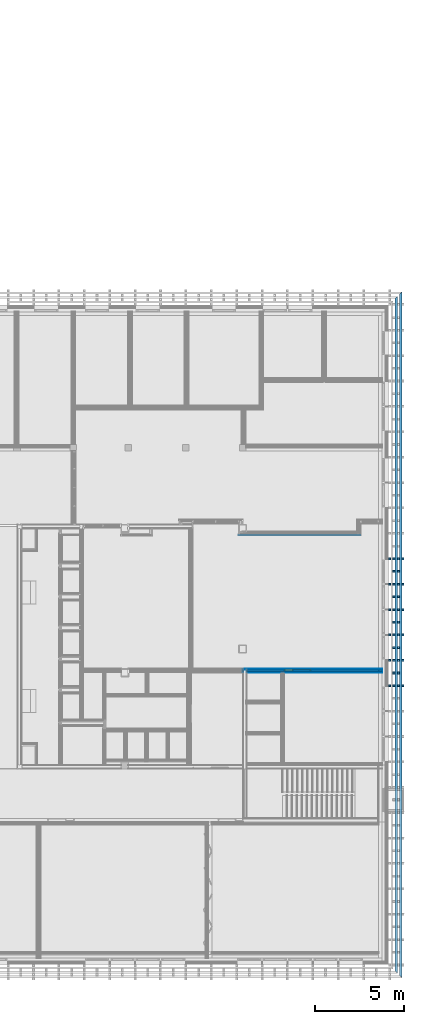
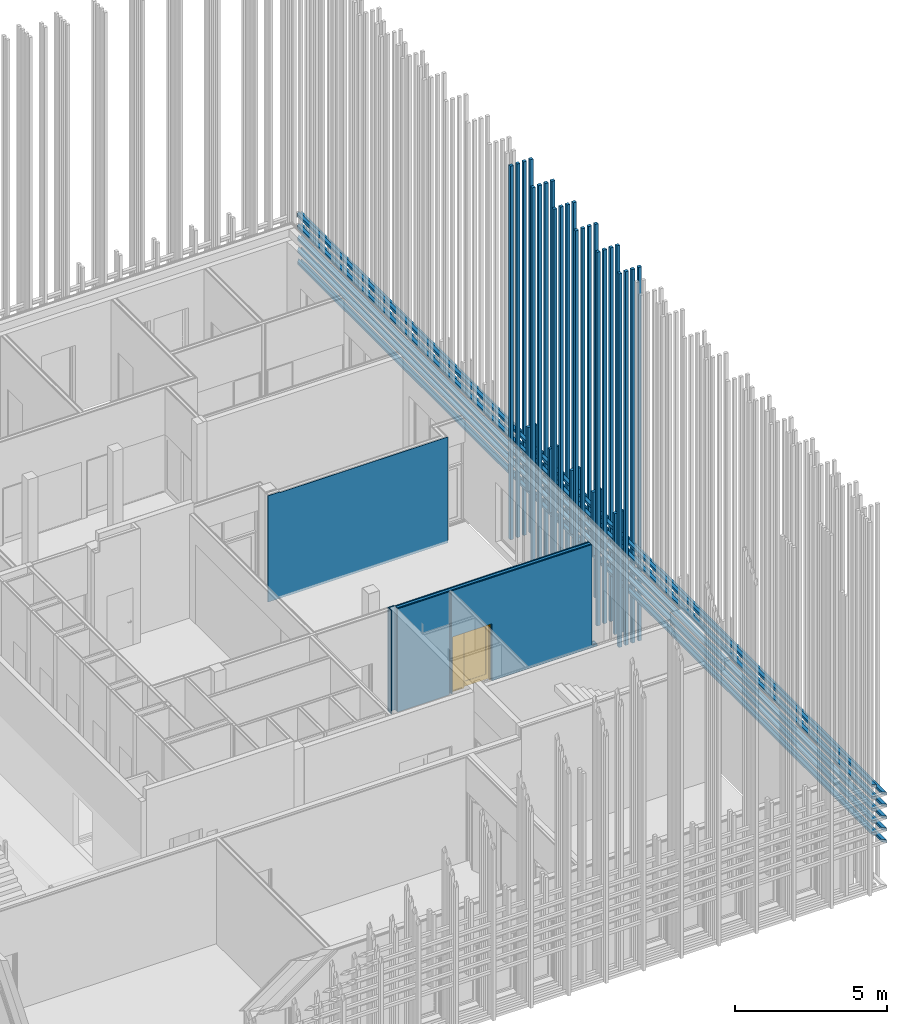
# One storey, part 213 of 260: 16 discrete accessories, 10 building element parts, 1 door, 1 opening, 2 elements without a shape of their own.
"""IFC2X3 building model written with IfcOpenShell, lengths in millimetres."""

import ifcopenshell
import ifcopenshell.guid

model = None  # the IFC model being written
_history = None  # IfcOwnerHistory: only IFC2X3 demands one
_inside = {}  # id of a spatial element -> (the spatial element, [elements in it])
_under = {}  # id of a project, library or spatial element -> (it, [spatial elements below it])
_declared = {}  # id of a project -> (the project, [libraries it declares])
_typed = {}  # id of a type object -> (the type object, [elements of that type])
_made_of = {}  # id of a material, layer set ... -> (it, [elements and type objects made of it])


def new_model(schema):
    """Start an empty IFC model of exactly this schema.

    Asked for "IFC4X3", IfcOpenShell would pick the latest addendum, in which some entities
    have other attributes; the version numbers below select the first issue.
    IFC2X3 requires an IfcOwnerHistory on every rooted entity: one is made here for all.
    """
    global model, _history
    if schema == "IFC4X3":
        model = ifcopenshell.file(schema_version=(4, 3, 0, 0))
    else:
        model = ifcopenshell.file(schema=schema)
    _inside.clear()
    _under.clear()
    _declared.clear()
    _typed.clear()
    _made_of.clear()
    _history = None
    if model.schema == "IFC2X3":
        org = make("IfcOrganization", Name="unknown")
        user = make(
            "IfcPersonAndOrganization",
            ThePerson=make("IfcPerson", FamilyName="unknown"),
            TheOrganization=org,
        )
        app = make(
            "IfcApplication",
            ApplicationDeveloper=org,
            Version="unknown",
            ApplicationFullName="unknown",
            ApplicationIdentifier="unknown",
        )
        _history = make(
            "IfcOwnerHistory",
            OwningUser=user,
            OwningApplication=app,
            ChangeAction="ADDED",
            CreationDate=0,
        )
    return model


def make(cls, **values):
    """One entity of the class cls with the attributes given. An attribute that is None is left unset."""
    return model.create_entity(
        cls, **{name: value for name, value in values.items() if value is not None}
    )


def entity(cls, *values):
    """Any entity or typed value of the class cls, its attributes in the order of the schema. None: left unset."""
    e = model.create_entity(cls)
    for i, value in enumerate(values):
        if value is not None:
            e[i] = value
    return e


def rooted(cls, **values):
    """An entity with a GlobalId (a new one), such as an element, a storey or a relation."""
    return make(cls, GlobalId=ifcopenshell.guid.new(), OwnerHistory=_history, **values)


def si_unit(unit_type, name, prefix=None):
    """IfcSIUnit, for example si_unit("LENGTHUNIT", "METRE", prefix="MILLI")."""
    return make("IfcSIUnit", UnitType=unit_type, Prefix=prefix, Name=name)


def converted_unit(unit_type, name, factor, base, dimensions=None, offset=None):
    """IfcConversionBasedUnit, such as the inch: factor (a typed value) times the base unit."""
    return make(
        "IfcConversionBasedUnit"
        if offset is None
        else "IfcConversionBasedUnitWithOffset",
        ConversionOffset=offset,
        Dimensions=None
        if dimensions is None
        else entity("IfcDimensionalExponents", *dimensions),
        UnitType=unit_type,
        Name=name,
        ConversionFactor=make(
            "IfcMeasureWithUnit", ValueComponent=factor, UnitComponent=base
        ),
    )


def derived_unit(unit_type, elements):
    """IfcDerivedUnit: a product of units, each with its exponent."""
    return make(
        "IfcDerivedUnit",
        Elements=[
            make("IfcDerivedUnitElement", Unit=unit, Exponent=power)
            for unit, power in elements
        ],
        UnitType=unit_type,
    )


def money_unit(currency):
    """IfcMonetaryUnit."""
    return make("IfcMonetaryUnit", Currency=currency)


def assignment(units):
    """IfcUnitAssignment: the units of a project."""
    return None if units is None else make("IfcUnitAssignment", Units=units)


def point(xyz):
    """IfcCartesianPoint."""
    return None if xyz is None else make("IfcCartesianPoint", Coordinates=xyz)


def direction(xyz):
    """IfcDirection."""
    return None if xyz is None else make("IfcDirection", DirectionRatios=xyz)


def frame(location, z_axis=None, x_axis=None):
    """IfcAxis2Placement3D, a coordinate frame: its origin and axes. An axis left out is left unset."""
    return make(
        "IfcAxis2Placement3D",
        Location=point(location),
        Axis=direction(z_axis),
        RefDirection=direction(x_axis),
    )


def origin_with_axes():
    """The frame at (0, 0, 0) with the z axis (0, 0, 1) and the x axis (1, 0, 0) written out."""
    return frame((0.0, 0.0, 0.0), z_axis=(0.0, 0.0, 1.0), x_axis=(1.0, 0.0, 0.0))


def place(relative_to, where):
    """IfcLocalPlacement: puts the frame where relative to a parent placement (None: the world)."""
    return make(
        "IfcLocalPlacement", PlacementRelTo=relative_to, RelativePlacement=where
    )


def context(
    kind, dimensions, precision=None, world=None, true_north=None, identifier=None
):
    """IfcGeometricRepresentationContext, for example the 3D "Model" context."""
    return make(
        "IfcGeometricRepresentationContext",
        ContextIdentifier=identifier,
        ContextType=kind,
        CoordinateSpaceDimension=dimensions,
        Precision=precision,
        WorldCoordinateSystem=world,
        TrueNorth=true_north,
    )


def subcontext(parent, identifier, kind, view, scale=None):
    """IfcGeometricRepresentationSubContext, for example "Body" below "Model"."""
    return make(
        "IfcGeometricRepresentationSubContext",
        ContextIdentifier=identifier,
        ContextType=kind,
        ParentContext=parent,
        TargetScale=scale,
        TargetView=view,
    )


def project(units=None, contexts=None):
    """IfcProject with its units and contexts."""
    return rooted(
        "IfcProject",
        Name="project",
        RepresentationContexts=contexts,
        UnitsInContext=assignment(units),
    )


def spatial(cls, under=None, at=None, **own):
    """A site, building, storey or space (cls), placed at a placement, below another one or the project."""
    s = rooted(cls, ObjectPlacement=at, **own)
    if under is not None:
        _under.setdefault(under.id(), (under, []))[1].append(s)
    return s


def faces_of(points, faces, orient=None, outer=None):
    """IfcFace entities. A face is a list of loops; a loop is a list of indices into points, from 0.

    orient and outer hold one flag for each loop. By default every Orientation is true, the
    first loop of a face is its IfcFaceOuterBound and the others are IfcFaceBound.
    """
    made = []
    for i, loops in enumerate(faces):
        bounds = []
        for j, loop in enumerate(loops):
            is_outer = j == 0 if outer is None else outer[i][j]
            bounds.append(
                make(
                    "IfcFaceOuterBound" if is_outer else "IfcFaceBound",
                    Bound=make("IfcPolyLoop", Polygon=[points[k] for k in loop]),
                    Orientation=True if orient is None else orient[i][j],
                )
            )
        made.append(make("IfcFace", Bounds=bounds))
    return made


def open_shell(faces, orient=None, outer=None):
    """The faces of one IfcOpenShell. surface_model builds it on its shared points."""
    return ("IfcOpenShell", faces, orient, outer)


def faceted_brep(points, faces, orient=None, outer=None, voids=None):
    """IfcFacetedBrep: a solid bounded by flat faces; with voids (closed shells), ...WithVoids."""
    shared = [point(p) for p in points]
    hull = make("IfcClosedShell", CfsFaces=faces_of(shared, faces, orient, outer))
    if voids is None:
        return make("IfcFacetedBrep", Outer=hull)
    return make(
        "IfcFacetedBrepWithVoids",
        Outer=hull,
        Voids=[
            make(cls, CfsFaces=faces_of(shared, fs, o, b)) for cls, fs, o, b in voids
        ],
    )


def surface_model(cls, points, shells):
    """IfcFaceBasedSurfaceModel or IfcShellBasedSurfaceModel (cls): surfaces that need not close."""
    shared = [point(p) for p in points]
    made = [make(c, CfsFaces=faces_of(shared, fs, o, b)) for c, fs, o, b in shells]
    if cls == "IfcFaceBasedSurfaceModel":
        return make(cls, FbsmFaces=made)
    return make(cls, SbsmBoundary=made)


def shape(context_of_items, identifier, shape_type, items):
    """IfcShapeRepresentation: the items that make up one representation, for example the "Body"."""
    return make(
        "IfcShapeRepresentation",
        ContextOfItems=context_of_items,
        RepresentationIdentifier=identifier,
        RepresentationType=shape_type,
        Items=items,
    )


def material(Name=None, Category=None):
    """IfcMaterial."""
    return make("IfcMaterial", Name=Name, Category=Category)


def material_list(materials):
    """IfcMaterialList."""
    return make("IfcMaterialList", Materials=materials)


def made_of(thing, what):
    """Note that an element or type object is made of a material, layer set ...; save() writes the relation."""
    if what is not None:
        _made_of.setdefault(what.id(), (what, []))[1].append(thing)
    return thing


def type_object(cls, material=None, **own):
    """A type object (cls), such as IfcWallType, which elements share."""
    return made_of(rooted(cls, **own), material)


def element(
    cls,
    number,
    at=None,
    inside=None,
    cuts=None,
    type_object=None,
    material=None,
    context=None,
    identifier="Body",
    shape_type=None,
    held_by="IfcProductDefinitionShape",
    body=None,
    shapes=None,
    **own,
):
    """One element of the class cls, such as IfcWall. Its Tag is "e" and its number.

    at: its placement. inside: the storey or other place that contains it. cuts: it is an
    opening in that element (IfcRelVoidsElement). A single representation is given by context,
    identifier, shape_type and body (its items); several are given by shapes. held_by: the class
    of the entity that holds the representations. save() writes the other relations.
    """
    e = rooted(cls, Tag="e%d" % number, ObjectPlacement=at, **own)
    if body is not None:
        shapes = [shape(context, identifier, shape_type, body)]
    if shapes is not None:
        e.Representation = make(held_by, Representations=shapes)
    if inside is not None:
        _inside.setdefault(inside.id(), (inside, []))[1].append(e)
    if cuts is not None:
        rooted(
            "IfcRelVoidsElement", RelatingBuildingElement=cuts, RelatedOpeningElement=e
        )
    if type_object is not None:
        _typed.setdefault(type_object.id(), (type_object, []))[1].append(e)
    return made_of(e, material)


def fill(opening, filler):
    """IfcRelFillsElement: the door or window that sits in an opening."""
    return rooted(
        "IfcRelFillsElement",
        RelatingOpeningElement=opening,
        RelatedBuildingElement=filler,
    )


def aggregate(whole, parts):
    """IfcRelAggregates: a whole, such as a stair, and the parts it consists of."""
    return rooted("IfcRelAggregates", RelatingObject=whole, RelatedObjects=parts)


def save(model, path):
    """Write the relations noted so far, then the file.

    IfcRelAggregates (storeys below a building ...), IfcRelContainedInSpatialStructure (elements
    in a storey), IfcRelDefinesByType, IfcRelAssociatesMaterial and IfcRelDeclares: one each for
    every whole, place, type object, material and project.
    """
    for whole, parts in _under.values():
        aggregate(whole, parts)
    for where, things in _inside.values():
        rooted(
            "IfcRelContainedInSpatialStructure",
            RelatedElements=things,
            RelatingStructure=where,
        )
    for kind, things in _typed.values():
        rooted("IfcRelDefinesByType", RelatedObjects=things, RelatingType=kind)
    for what, things in _made_of.values():
        rooted("IfcRelAssociatesMaterial", RelatedObjects=things, RelatingMaterial=what)
    for by, libraries in _declared.values():
        rooted("IfcRelDeclares", RelatingContext=by, RelatedDefinitions=libraries)
    model.write(path)


model = new_model("IFC2X3")

# Units and contexts
model_context = context("Model", 3, precision=0.01, world=origin_with_axes(), true_north=direction((0.0, 1.0)))
body_context = subcontext(model_context, "Body", "Model", "MODEL_VIEW")
ifc_project = project(units=[si_unit("LENGTHUNIT", "METRE", prefix="MILLI"), si_unit("AREAUNIT", "SQUARE_METRE"), si_unit("VOLUMEUNIT", "CUBIC_METRE"), converted_unit("PLANEANGLEUNIT", "DEGREE", entity("IfcPlaneAngleMeasure", 0.0174532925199), si_unit("PLANEANGLEUNIT", "RADIAN"), dimensions=[0, 0, 0, 0, 0, 0, 0]), money_unit("EUR"), converted_unit("TIMEUNIT", "Year", entity("IfcTimeMeasure", 31556926.0), si_unit("TIMEUNIT", "SECOND"), dimensions=[0, 0, 1, 0, 0, 0, 0]), si_unit("MASSUNIT", "GRAM", prefix="KILO"), si_unit("THERMODYNAMICTEMPERATUREUNIT", "DEGREE_CELSIUS"), si_unit("LUMINOUSINTENSITYUNIT", "LUMEN"), si_unit("ENERGYUNIT", "JOULE", prefix="MEGA"), derived_unit("THERMALCONDUCTANCEUNIT", [(si_unit("POWERUNIT", "WATT"), 1), (si_unit("LENGTHUNIT", "METRE"), -1), (si_unit("THERMODYNAMICTEMPERATUREUNIT", "KELVIN"), -1)]), derived_unit("SPECIFICHEATCAPACITYUNIT", [(si_unit("ENERGYUNIT", "JOULE"), 1), (si_unit("MASSUNIT", "GRAM", prefix="KILO"), -1), (si_unit("THERMODYNAMICTEMPERATUREUNIT", "KELVIN"), -1)]), derived_unit("MASSDENSITYUNIT", [(si_unit("MASSUNIT", "GRAM", prefix="KILO"), 1), (si_unit("VOLUMEUNIT", "CUBIC_METRE"), -1)])], contexts=[model_context])

# Site, building, storey
site_placement = place(None, origin_with_axes())
site = spatial("IfcSite", under=ifc_project, at=site_placement, Name="Kolde pst 67a", CompositionType="ELEMENT")
building_placement = place(site_placement, origin_with_axes())
building = spatial("IfcBuilding", under=site, at=building_placement, Name="Riigigümnaasium", CompositionType="ELEMENT")
storey_placement = place(building_placement, origin_with_axes())
storey = spatial("IfcBuildingStorey", under=building, at=storey_placement, Name="1. korrus", CompositionType="ELEMENT", Elevation=0.0)

# Door
door_style = type_object("IfcDoorStyle", Name="Door with Sidelight on Side 2 25", ConstructionType="NOTDEFINED", OperationType="SINGLE_SWING_RIGHT", ParameterTakesPrecedence=False, Sizeable=False)
wall_1_placement = place(storey_placement, frame((76579.9993279, 16330.0043142, 0.0), z_axis=(0.0, 0.0, 1.0), x_axis=(1.0, 0.0, 0.0)))
opening_placement = place(wall_1_placement, frame((3100.59532071, 0.0, 0.0), z_axis=(0.0, 0.0, 1.0), x_axis=(1.0, 0.0, 0.0)))
door_placement = place(opening_placement, frame((-750.0, 0.0, 0.0), z_axis=(0.0, 0.0, 1.0), x_axis=(1.0, 0.0, 0.0)))
door = element("IfcDoor", 1, at=door_placement, inside=storey, type_object=door_style, Name="Siseuks", ObjectType="DOOR", OverallHeight=2300.0, OverallWidth=1500.0, context=body_context, shape_type="SurfaceModel", body=[
    faceted_brep([(0.0, 0.0, 0.0), (40.0, 0.0, 0.0), (40.0, -115.0, 0.0), (0.0, -115.0, 0.0), (0.0, 0.0, 2260.0), (40.0, 0.0, 2260.0), (40.0, 0.0, 40.0), (40.0, -115.0, 40.0), (40.0, -115.0, 2260.0), (0.0, -115.0, 2260.0)], [[[0, 1, 2, 3]], [[0, 4, 5, 6, 1]], [[1, 6, 7, 2]], [[3, 2, 7, 8, 9]], [[4, 0, 3, 9]], [[5, 4, 9, 8]], [[6, 5, 8, 7]]]),
    faceted_brep([(500.0, -40.0, 0.0), (500.0, -40.0, 2260.0), (500.0, -115.0, 2260.0), (500.0, -115.0, 0.0), (488.0, -40.0, 2260.0), (488.0, -40.0, 0.0), (488.0, 0.0, 2260.0), (460.0, 0.0, 2260.0), (460.0, -115.0, 2260.0), (460.0, -115.0, 0.0), (460.0, -115.0, 40.0), (460.0, 0.0, 0.0), (488.0, 0.0, 0.0), (460.0, 0.0, 40.0)], [[[0, 1, 2, 3]], [[4, 1, 0, 5]], [[4, 6, 7, 8, 2, 1]], [[9, 3, 2, 8, 10]], [[5, 0, 3, 9, 11, 12]], [[6, 4, 5, 12]], [[6, 12, 11, 13, 7]], [[13, 10, 8, 7]], [[11, 9, 10, 13]]]),
    faceted_brep([(40.0, 0.0, 40.0), (40.0, 0.0, 0.0), (40.0, -115.0, 0.0), (40.0, -115.0, 40.0), (460.0, 0.0, 40.0), (460.0, 0.0, 0.0), (460.0, -115.0, 0.0), (460.0, -115.0, 40.0)], [[[0, 1, 2, 3]], [[0, 4, 5, 1]], [[1, 5, 6, 2]], [[3, 2, 6, 7]], [[4, 0, 3, 7]], [[5, 4, 7, 6]]]),
    faceted_brep([(1472.0, -40.0, 2260.0), (1460.0, -40.0, 2260.0), (1460.0, -115.0, 2260.0), (1500.0, -115.0, 2260.0), (1500.0, 0.0, 2260.0), (1472.0, 0.0, 2260.0), (1472.0, -40.0, 0.0), (1460.0, -40.0, 0.0), (1460.0, -115.0, 0.0), (1500.0, -115.0, 0.0), (1500.0, 0.0, 0.0), (1472.0, 0.0, 0.0)], [[[0, 1, 2, 3, 4, 5]], [[1, 0, 6, 7]], [[1, 7, 8, 2]], [[3, 2, 8, 9]], [[4, 3, 9, 10]], [[11, 5, 4, 10]], [[0, 5, 11, 6]], [[6, 11, 10, 9, 8, 7]]]),
    faceted_brep([(488.0, 0.0, 2272.0), (488.0, 0.0, 2260.0), (460.0, 0.0, 2260.0), (40.0, 0.0, 2260.0), (0.0, 0.0, 2260.0), (0.0, 0.0, 2300.0), (1500.0, 0.0, 2300.0), (1500.0, 0.0, 2260.0), (1472.0, 0.0, 2260.0), (1472.0, 0.0, 2272.0), (488.0, -40.0, 2272.0), (488.0, -40.0, 2260.0), (1460.0, -40.0, 2260.0), (1460.0, -115.0, 2260.0), (500.0, -115.0, 2260.0), (460.0, -115.0, 2260.0), (40.0, -115.0, 2260.0), (0.0, -115.0, 2260.0), (0.0, -115.0, 2300.0), (1500.0, -115.0, 2300.0), (1500.0, -115.0, 2260.0), (1472.0, -40.0, 2260.0), (1472.0, -40.0, 2272.0)], [[[0, 1, 2, 3, 4, 5, 6, 7, 8, 9]], [[1, 0, 10, 11]], [[11, 12, 13, 14, 15, 2, 1]], [[2, 15, 16, 3]], [[3, 16, 17, 4]], [[4, 17, 18, 5]], [[5, 18, 19, 6]], [[6, 19, 20, 7]], [[21, 8, 7, 20, 13, 12]], [[9, 8, 21, 22]], [[0, 9, 22, 10]], [[21, 12, 11, 10, 22]], [[13, 20, 19, 18, 17, 16, 15, 14]]]),
    faceted_brep([(1472.0, 0.0, 200.0), (1472.0, -40.0, 200.0), (1372.0, -40.0, 200.0), (1372.0, 0.0, 200.0), (1472.0, 0.0, 2172.0), (1472.0, -40.0, 2172.0), (1372.0, -40.0, 2172.0), (1372.0, 0.0, 2172.0)], [[[0, 1, 2, 3]], [[4, 5, 1, 0]], [[1, 5, 6, 2]], [[3, 2, 6, 7]], [[0, 3, 7, 4]], [[7, 6, 5, 4]]]),
    faceted_brep([(488.0, 0.0, 200.0), (488.0, -40.0, 200.0), (488.0, -40.0, 2172.0), (488.0, 0.0, 2172.0), (588.0, 0.0, 200.0), (588.0, -40.0, 200.0), (588.0, -40.0, 2172.0), (588.0, 0.0, 2172.0)], [[[0, 1, 2, 3]], [[4, 5, 1, 0]], [[1, 5, 6, 2]], [[3, 2, 6, 7]], [[0, 3, 7, 4]], [[7, 6, 5, 4]]]),
    faceted_brep([(1472.0, 0.0, 0.0), (1472.0, -40.0, 0.0), (488.0, -40.0, 0.0), (488.0, 0.0, 0.0), (1472.0, 0.0, 200.0), (1472.0, -40.0, 200.0), (1372.0, -40.0, 200.0), (588.0, -40.0, 200.0), (488.0, -40.0, 200.0), (488.0, 0.0, 200.0), (588.0, 0.0, 200.0), (1372.0, 0.0, 200.0)], [[[0, 1, 2, 3]], [[4, 5, 1, 0]], [[1, 5, 6, 7, 8, 2]], [[3, 2, 8, 9]], [[0, 3, 9, 10, 11, 4]], [[11, 6, 5, 4]], [[10, 7, 6, 11]], [[9, 8, 7, 10]]]),
    faceted_brep([(1472.0, 0.0, 2272.0), (1472.0, -40.0, 2272.0), (1472.0, -40.0, 2172.0), (1472.0, 0.0, 2172.0), (488.0, 0.0, 2272.0), (488.0, -40.0, 2272.0), (488.0, -40.0, 2172.0), (588.0, -40.0, 2172.0), (1372.0, -40.0, 2172.0), (1372.0, 0.0, 2172.0), (588.0, 0.0, 2172.0), (488.0, 0.0, 2172.0)], [[[0, 1, 2, 3]], [[4, 5, 1, 0]], [[1, 5, 6, 7, 8, 2]], [[3, 2, 8, 9]], [[0, 3, 9, 10, 11, 4]], [[11, 6, 5, 4]], [[10, 7, 6, 11]], [[9, 8, 7, 10]]]),
    surface_model("IfcShellBasedSurfaceModel", [(1372.0, -14.0, 200.0), (588.0, -14.0, 200.0), (588.0, -14.0, 2172.0), (1372.0, -14.0, 2172.0)], [open_shell([[[0, 1, 2, 3]]])]),
    surface_model("IfcShellBasedSurfaceModel", [(1372.0, -26.0, 200.0), (1372.0, -26.0, 2172.0), (588.0, -26.0, 2172.0), (588.0, -26.0, 200.0)], [open_shell([[[0, 1, 2, 3]]])]),
    surface_model("IfcShellBasedSurfaceModel", [(40.0, -91.0, 40.0), (40.0, -91.0, 2260.0), (460.0, -91.0, 2260.0), (460.0, -91.0, 40.0)], [open_shell([[[0, 1, 2, 3]]])]),
    surface_model("IfcShellBasedSurfaceModel", [(40.0, -103.0, 40.0), (460.0, -103.0, 40.0), (460.0, -103.0, 2260.0), (40.0, -103.0, 2260.0)], [open_shell([[[0, 1, 2, 3]]])]),
])

# Discrete accessories
ifc_material_1 = material(Name="_VÄLISVIIMISTLUS - sõrmjätkatud puitprussid 120x115mm, liitekohad vähemärgatavad, Platowood sõrmjätkatud kuusk või samaväärne; eeltöödeldud tuletõkkevõõbaga, tuletundlikkus B-s1, d0, Woodsafe Exterior WFX™ või samaväärne; kinnitused vastavalt EK osale")
ifc_material_list_1 = material_list([ifc_material_1, ifc_material_1, ifc_material_1, ifc_material_1])
discrete_accessory_type_1 = type_object("IfcDiscreteAccessoryType", Name="120 4-ne vertikaalne 870 x 115")
for number, where, z_axis, x_axis in (
    (2, (84792.0287604, 15367.5305943, 280.0), (0.0, 0.0, 1.0), (-0.999999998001, 6.32316306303e-05, 0.0)),
    (3, (84792.0363482, 16797.5305901, 280.0), (0.0, 0.0, 1.0), (-0.999999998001, 6.32316306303e-05, 0.0)),
    (4, (84792.0363482, 18227.530592, 280.0), (0.0, 0.0, 1.0), (-0.999999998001, 6.32316306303e-05, 0.0)),
    (5, (84792.0363482, 19657.5305846, 280.0), (0.0, 0.0, 1.0), (-0.999999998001, 6.32316306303e-05, 0.0)),
    (6, (84792.0363482, 21087.530579, 280.0), (0.0, 0.0, 1.0), (-0.999999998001, 6.32316306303e-05, 0.0)),
    (7, (84792.0363482, 22517.5304736, 280.0), (0.0, 0.0, 1.0), (-0.999999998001, 6.32316306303e-05, 0.0)),
):
    element("IfcDiscreteAccessory", number, at=place(storey_placement, frame(where, z_axis=z_axis, x_axis=x_axis)), inside=storey, type_object=discrete_accessory_type_1, material=ifc_material_list_1, Name="Päikesevarjestus", context=body_context, shape_type="Brep", body=[
        faceted_brep([(-133.0, -70.0, 0.0), (-13.0, -70.0, 0.0), (-13.0, -70.0, 15050.0), (-133.0, -70.0, 15050.0), (-133.0, 45.0, 0.0), (-13.0, 45.0, 0.0), (-13.0, 45.0, 15050.0), (-133.0, 45.0, 15050.0)], [[[0, 1, 2, 3]], [[0, 4, 5, 1]], [[1, 5, 6, 2]], [[3, 2, 6, 7]], [[4, 0, 3, 7]], [[5, 4, 7, 6]]]),
        faceted_brep([(-383.0, -70.0, 0.0), (-263.0, -70.0, 0.0), (-263.0, -70.0, 15050.0), (-383.0, -70.0, 15050.0), (-383.0, 45.0, 0.0), (-263.0, 45.0, 0.0), (-263.0, 45.0, 15050.0), (-383.0, 45.0, 15050.0)], [[[0, 1, 2, 3]], [[0, 4, 5, 1]], [[1, 5, 6, 2]], [[3, 2, 6, 7]], [[4, 0, 3, 7]], [[5, 4, 7, 6]]]),
        faceted_brep([(-633.0, -70.0, 0.0), (-513.0, -70.0, 0.0), (-513.0, -70.0, 15050.0), (-633.0, -70.0, 15050.0), (-633.0, 45.0, 0.0), (-513.0, 45.0, 0.0), (-513.0, 45.0, 15050.0), (-633.0, 45.0, 15050.0)], [[[0, 1, 2, 3]], [[0, 4, 5, 1]], [[1, 5, 6, 2]], [[3, 2, 6, 7]], [[4, 0, 3, 7]], [[5, 4, 7, 6]]]),
        faceted_brep([(-883.0, -70.0, 0.0), (-763.0, -70.0, 0.0), (-763.0, -70.0, 15050.0), (-883.0, -70.0, 15050.0), (-883.0, 45.0, 0.0), (-763.0, 45.0, 0.0), (-763.0, 45.0, 15050.0), (-883.0, 45.0, 15050.0)], [[[0, 1, 2, 3]], [[0, 4, 5, 1]], [[1, 5, 6, 2]], [[3, 2, 6, 7]], [[4, 0, 3, 7]], [[5, 4, 7, 6]]]),
    ])
ifc_material_list_2 = material_list([ifc_material_1, ifc_material_1])
discrete_accessory_type_2 = type_object("IfcDiscreteAccessoryType", Name="1+paiksekaitse 4 tk nihkes 2 370 x 355")
for number, where, z_axis, x_axis in (
    (8, (84805.0413713, -325.007137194, 2580.00014213), (0.0, 0.0, 1.0), (1.0, -1.23301231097e-07, 0.0)),
    (9, (84805.0413713, -325.007137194, 3060.00014213), (0.0, 0.0, 1.0), (1.0, -1.23301231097e-07, 0.0)),
    (10, (84805.0413713, -325.007137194, 3540.00014213), (0.0, 0.0, 1.0), (1.0, -1.23301231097e-07, 0.0)),
    (11, (84805.0413713, -325.007137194, 4020.00014213), (0.0, 0.0, 1.0), (1.0, -1.23301231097e-07, 0.0)),
    (12, (84805.0413713, -325.007137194, 2100.00014213), (0.0, 0.0, 1.0), (1.0, -1.23301231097e-07, 0.0)),
):
    element("IfcDiscreteAccessory", number, at=place(storey_placement, frame(where, z_axis=z_axis, x_axis=x_axis)), inside=storey, type_object=discrete_accessory_type_2, material=ifc_material_list_2, Name="Päikesevarjestus", context=body_context, shape_type="Brep", body=[
        faceted_brep([(375.0, 37504.9790686, 347.001360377), (375.0, -374.99997755, 347.001360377), (495.0, -494.999970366, 357.5), (495.0, 37624.9790834, 357.5), (375.0, 37504.9790686, 242.5), (375.0, -374.99997755, 242.5), (495.0, -494.999970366, 242.5), (495.0, 37624.9790834, 242.5)], [[[0, 1, 2, 3]], [[4, 5, 1, 0]], [[5, 6, 2, 1]], [[3, 2, 6, 7]], [[4, 0, 3, 7]], [[7, 6, 5, 4]]]),
        faceted_brep([(625.0, 37754.9790994, 107.001360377), (625.0, -624.999962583, 107.001360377), (745.0, -744.999955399, 117.5), (745.0, 37874.9791142, 117.5), (625.0, 37754.9790994, 2.5), (625.0, -624.999962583, 2.5), (745.0, -744.999955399, 2.5), (745.0, 37874.9791142, 2.5)], [[[0, 1, 2, 3]], [[4, 5, 1, 0]], [[5, 6, 2, 1]], [[3, 2, 6, 7]], [[4, 0, 3, 7]], [[7, 6, 5, 4]]]),
    ])
discrete_accessory_type_3 = type_object("IfcDiscreteAccessoryType", Name="1+paiksekaitse 3 370 x 115")
discrete_accessory_placement = place(storey_placement, frame((85772.0333434, 16154.987151, 280.0), z_axis=(0.0, 0.0, 1.0), x_axis=(-1.0, 0.0, 0.0)))
element("IfcDiscreteAccessory", 13, at=discrete_accessory_placement, inside=storey, type_object=discrete_accessory_type_3, material=ifc_material_list_2, Name="Päikesevarjestus", context=body_context, shape_type="Brep", body=[
    faceted_brep([(467.0, 117.5, 0.0), (347.0, 117.5, 0.0), (347.0, 117.5, 4870.00014213), (467.0, 117.5, 4870.00014213), (467.0, 2.5, 0.0), (347.0, 2.5, 0.0), (347.0, 2.5, 4870.00014213), (467.0, 2.5, 4870.00014213)], [[[0, 1, 2, 3]], [[0, 4, 5, 1]], [[1, 5, 6, 2]], [[3, 2, 6, 7]], [[4, 0, 3, 7]], [[5, 4, 7, 6]]]),
    faceted_brep([(717.0, 117.5, 0.0), (597.0, 117.5, 0.0), (597.0, 117.5, 4870.00014213), (717.0, 117.5, 4870.00014213), (717.0, 2.5, 0.0), (597.0, 2.5, 0.0), (597.0, 2.5, 4870.00014213), (717.0, 2.5, 4870.00014213)], [[[0, 1, 2, 3]], [[0, 4, 5, 1]], [[1, 5, 6, 2]], [[3, 2, 6, 7]], [[4, 0, 3, 7]], [[5, 4, 7, 6]]]),
])
for number, where, z_axis, x_axis in (
    (14, (85772.0333434, 17584.9871502, 2580.00014213), (0.0, 0.0, 1.0), (-1.0, 0.0, 0.0)),
    (15, (85772.0333434, 19014.9871497, 2580.00014213), (0.0, 0.0, 1.0), (-1.0, 0.0, 0.0)),
    (16, (85772.0333434, 20444.9871474, 2580.00014213), (0.0, 0.0, 1.0), (-1.0, 0.0, 0.0)),
    (17, (85772.0333434, 21874.9871263, 2580.00014213), (0.0, 0.0, 1.0), (-1.0, 0.0, 0.0)),
):
    element("IfcDiscreteAccessory", number, at=place(storey_placement, frame(where, z_axis=z_axis, x_axis=x_axis)), inside=storey, type_object=discrete_accessory_type_3, material=ifc_material_list_2, Name="Päikesevarjestus", context=body_context, shape_type="Brep", body=[
        faceted_brep([(467.0, 117.5, 0.0), (347.0, 117.5, 0.0), (347.0, 117.5, 2570.0), (467.0, 117.5, 2570.0), (467.0, 2.5, 0.0), (347.0, 2.5, 0.0), (347.0, 2.5, 2570.0), (467.0, 2.5, 2570.0)], [[[0, 1, 2, 3]], [[0, 4, 5, 1]], [[1, 5, 6, 2]], [[3, 2, 6, 7]], [[4, 0, 3, 7]], [[5, 4, 7, 6]]]),
        faceted_brep([(717.0, 117.5, 0.0), (597.0, 117.5, 0.0), (597.0, 117.5, 2570.0), (717.0, 117.5, 2570.0), (717.0, 2.5, 0.0), (597.0, 2.5, 0.0), (597.0, 2.5, 2570.0), (717.0, 2.5, 2570.0)], [[[0, 1, 2, 3]], [[0, 4, 5, 1]], [[1, 5, 6, 2]], [[3, 2, 6, 7]], [[4, 0, 3, 7]], [[5, 4, 7, 6]]]),
    ])

# Wall, opening
wall_type_1 = type_object("IfcWallType", Name="SS-PK-10/1_vill100+2dold 220", PredefinedType="NOTDEFINED")
wall_1 = element("IfcWall", 18, at=wall_1_placement, inside=storey, type_object=wall_type_1, Name="Sisesein")
opening = element("IfcOpeningElement", 19, at=opening_placement, cuts=wall_1, Name="Siseuks", context=body_context, shape_type="Brep", body=[
    faceted_brep([(750.0, -220.0, 2300.0), (750.0, -220.0, 0.0), (750.0, 440.0, 0.0), (750.0, 440.0, 2300.0), (-750.0, -220.0, 2300.0), (-750.0, -220.0, 0.0), (-750.0, 440.0, 0.0), (-750.0, 440.0, 2300.0)], [[[0, 1, 2, 3]], [[0, 4, 5, 1]], [[1, 5, 6, 2]], [[3, 2, 6, 7]], [[4, 0, 3, 7]], [[5, 4, 7, 6]]]),
])

fill(opening, door)

# Building element part
ifc_material_2 = material(Name="_VIIMISTLUSKIHT - Dold plaat vastavalt SA osale")
building_element_part_1_placement = place(wall_1_placement, origin_with_axes())
building_element_part_1 = element("IfcBuildingElementPart", 20, at=building_element_part_1_placement, material=ifc_material_2, Name="_VIIMISTLUSKIHT - Dold plaat vastavalt SA osale", context=body_context, shape_type="Brep", body=[
    faceted_brep([(2350.59532071, 0.0, 2300.0), (2350.59532071, 0.0, 0.0), (0.0, 0.0, 0.0), (0.0, 0.0, 4185.0), (239.647159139, 0.0, 4185.0), (239.647159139, 0.0, 4190.0), (239.683119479, 0.0, 4190.0), (239.683119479, 0.0, 4156.9), (7660.0, 0.0, 4156.9), (7660.0, 0.0, 100.0), (7860.0, 0.0, 100.0), (7859.99875427, 0.0, 0.0), (3850.59532071, 0.0, 0.0), (3850.59532071, 0.0, 2300.0), (2350.59532071, -20.0, 2300.0), (2350.59532071, -20.0, 0.0), (0.0, -20.0, 0.0), (0.0, -20.0, 4185.0), (239.647070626, -20.0, 4185.0), (239.647070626, -20.0, 4190.0), (239.683119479, -20.0, 4190.0), (239.683119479, -20.0, 4156.9), (7660.0, -20.0, 4156.9), (7660.0, -20.0, 100.0), (7860.0, -20.0, 100.0), (7859.99875427, -20.0, 0.0), (3850.59532071, -20.0, 0.0), (3850.59532071, -20.0, 2300.0)], [[[0, 1, 2, 3, 4, 5, 6, 7, 8, 9, 10, 11, 12, 13]], [[1, 0, 14, 15]], [[1, 15, 16, 2]], [[3, 2, 16, 17]], [[3, 17, 18, 4]], [[5, 4, 18, 19]], [[6, 5, 19, 20]], [[6, 20, 21, 7]], [[8, 7, 21, 22]], [[22, 23, 9, 8]], [[24, 10, 9, 23]], [[10, 24, 25, 11]], [[26, 12, 11, 25]], [[13, 12, 26, 27]], [[0, 13, 27, 14]], [[27, 26, 25, 24, 23, 22, 21, 20, 19, 18, 17, 16, 15, 14]]]),
])

ifc_material_3 = material(Name="_KARKASS - eriprofiilkinnitus vastavalt sisemisele plaatviimistlusele")
building_element_part_2_placement = place(wall_1_placement, origin_with_axes())
building_element_part_2 = element("IfcBuildingElementPart", 21, at=building_element_part_2_placement, material=ifc_material_3, Name="_KARKASS - eriprofiilkinnitus vastavalt sisemisele plaatviimistlusele", context=body_context, shape_type="Brep", body=[
    faceted_brep([(2350.59532071, -20.0, 2300.0), (2350.59532071, -20.0, 0.0), (0.0, -20.0, 0.0), (0.0, -20.0, 4185.0), (239.647070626, -20.0, 4185.0), (239.647070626, -20.0, 4190.0), (239.683119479, -20.0, 4190.0), (239.683119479, -20.0, 4156.9), (7660.0, -20.0, 4156.9), (7660.0, -20.0, 100.0), (7860.0, -20.0, 100.0), (7859.99875427, -20.0, 0.0), (3850.59532071, -20.0, 0.0), (3850.59532071, -20.0, 2300.0), (2350.59532071, -30.0, 2300.0), (2350.59532071, -30.0, 0.0), (0.0, -30.0, 0.0), (0.0, -30.0, 4185.0), (239.64702637, -30.0, 4185.0), (239.64702637, -30.0, 4190.0), (239.683119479, -30.0, 4190.0), (239.683119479, -30.0, 4156.9), (7660.0, -30.0, 4156.9), (7660.0, -30.0, 100.0), (7860.0, -30.0, 100.0), (7859.99875427, -30.0, 0.0), (3850.59532071, -30.0, 0.0), (3850.59532071, -30.0, 2300.0)], [[[0, 1, 2, 3, 4, 5, 6, 7, 8, 9, 10, 11, 12, 13]], [[1, 0, 14, 15]], [[1, 15, 16, 2]], [[3, 2, 16, 17]], [[3, 17, 18, 4]], [[5, 4, 18, 19]], [[6, 5, 19, 20]], [[6, 20, 21, 7]], [[8, 7, 21, 22]], [[22, 23, 9, 8]], [[24, 10, 9, 23]], [[10, 24, 25, 11]], [[26, 12, 11, 25]], [[13, 12, 26, 27]], [[0, 13, 27, 14]], [[27, 26, 25, 24, 23, 22, 21, 20, 19, 18, 17, 16, 15, 14]]]),
])

ifc_material_4 = material(Name="_PLAATMATERJAL - tuletõkkekipsplaat, Knauf Red GKF või samaväärne")
building_element_part_3_placement = place(wall_1_placement, origin_with_axes())
building_element_part_3 = element("IfcBuildingElementPart", 22, at=building_element_part_3_placement, material=ifc_material_4, Name="_PLAATMATERJAL - tuletõkkekipsplaat, Knauf Red GKF või samaväärne", context=body_context, shape_type="Brep", body=[
    faceted_brep([(2350.59532071, -30.0, 2300.0), (2350.59532071, -30.0, 0.0), (0.0, -30.0, 0.0), (0.0, -30.0, 4185.0), (239.64702637, -30.0, 4185.0), (239.64702637, -30.0, 4190.0), (239.683119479, -30.0, 4190.0), (239.683119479, -30.0, 4156.9), (7660.0, -30.0, 4156.9), (7660.0, -30.0, 100.0), (7860.0, -30.0, 100.0), (7859.99875427, -30.0, 0.0), (3850.59532071, -30.0, 0.0), (3850.59532071, -30.0, 2300.0), (2350.59532071, -45.0, 2300.0), (2350.59532071, -45.0, 0.0), (0.0, -45.0, 0.0), (0.0, -45.0, 4185.0), (239.646959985, -45.0, 4185.0), (239.646959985, -45.0, 4190.0), (239.683119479, -45.0, 4190.0), (239.683119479, -45.0, 4156.9), (7660.0, -45.0, 4156.9), (7660.0, -45.0, 100.0), (7860.0, -45.0, 100.0), (7859.99875427, -45.0, 0.0), (3850.59532071, -45.0, 0.0), (3850.59532071, -45.0, 2300.0)], [[[0, 1, 2, 3, 4, 5, 6, 7, 8, 9, 10, 11, 12, 13]], [[1, 0, 14, 15]], [[1, 15, 16, 2]], [[3, 2, 16, 17]], [[3, 17, 18, 4]], [[5, 4, 18, 19]], [[6, 5, 19, 20]], [[6, 20, 21, 7]], [[8, 7, 21, 22]], [[22, 23, 9, 8]], [[24, 10, 9, 23]], [[10, 24, 25, 11]], [[26, 12, 11, 25]], [[13, 12, 26, 27]], [[0, 13, 27, 14]], [[27, 26, 25, 24, 23, 22, 21, 20, 19, 18, 17, 16, 15, 14]]]),
])

building_element_part_4_placement = place(wall_1_placement, origin_with_axes())
building_element_part_4 = element("IfcBuildingElementPart", 23, at=building_element_part_4_placement, material=ifc_material_4, Name="_PLAATMATERJAL - tuletõkkekipsplaat, Knauf Red GKF või samaväärne", context=body_context, shape_type="Brep", body=[
    faceted_brep([(3850.59532071, -45.0, 2300.0), (2350.59532071, -45.0, 2300.0), (2350.59532071, -45.0, 0.0), (0.0, -45.0, 0.0), (0.0, -45.0, 4185.0), (239.646959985, -45.0, 4185.0), (239.646959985, -45.0, 4190.0), (239.683119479, -45.0, 4190.0), (239.683119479, -45.0, 4156.9), (7660.0, -45.0, 4156.9), (7660.0, -45.0, 100.0), (7860.0, -45.0, 100.0), (7859.99875427, -45.0, 0.0), (3850.59532071, -45.0, 0.0), (2350.59532071, -60.0, 2300.0), (3850.59532071, -60.0, 2300.0), (2350.59532071, -60.0, 0.0), (0.0, -60.0, 0.0), (0.0, -60.0, 4185.0), (239.6468936, -60.0, 4185.0), (239.6468936, -60.0, 4190.0), (239.683119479, -60.0, 4190.0), (239.683119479, -60.0, 4156.9), (7660.0, -60.0, 4156.9), (7660.0, -60.0, 100.0), (7860.0, -60.0, 100.0), (7859.99875427, -60.0, 0.0), (3850.59532071, -60.0, 0.0)], [[[0, 1, 2, 3, 4, 5, 6, 7, 8, 9, 10, 11, 12, 13]], [[14, 1, 0, 15]], [[16, 2, 1, 14]], [[3, 2, 16, 17]], [[18, 4, 3, 17]], [[5, 4, 18, 19]], [[20, 6, 5, 19]], [[21, 7, 6, 20]], [[8, 7, 21, 22]], [[23, 9, 8, 22]], [[9, 23, 24, 10]], [[24, 25, 11, 10]], [[12, 11, 25, 26]], [[26, 27, 13, 12]], [[15, 0, 13, 27]], [[14, 15, 27, 26, 25, 24, 23, 22, 21, 20, 19, 18, 17, 16]]]),
])

ifc_material_5 = material(Name="_KARKASS - puitpruss 100x50mm vertikaalne, samm 600mm, vahel mineraalvill, helineeldetegur αw = 1.0, ISOVER ACOUSTIC 100mm või samaväärne")
building_element_part_5_placement = place(wall_1_placement, origin_with_axes())
building_element_part_5 = element("IfcBuildingElementPart", 24, at=building_element_part_5_placement, material=ifc_material_5, Name="_KARKASS - puitpruss 100x50mm vertikaalne, samm 600mm, vahel mineraalvill, helineeldetegur αw = 1.0, ISOVER ACOUSTIC 100mm või samaväärne", context=body_context, shape_type="Brep", body=[
    faceted_brep([(0.0, -160.0, 4185.0), (0.0, -160.0, 0.0), (29.9953694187, -160.0, 0.0), (29.9953694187, -160.0, 4185.0), (0.0, -60.0, 4185.0), (0.0, -60.0, 0.0), (29.9953694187, -60.0000447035, 0.0), (29.9953694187, -60.0000447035, 4185.0)], [[[0, 1, 2, 3]], [[1, 0, 4, 5]], [[2, 1, 5, 6]], [[3, 2, 6, 7]], [[0, 3, 7, 4]], [[7, 6, 5, 4]]]),
    faceted_brep([(239.646451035, -160.0, 4190.0), (239.646451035, -160.0, 4185.0), (239.683119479, -160.0, 4185.0), (239.683119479, -160.0, 4190.0), (239.6468936, -60.0, 4190.0), (239.6468936, -60.0, 4185.0), (239.683119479, -60.0000447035, 4185.0), (239.683119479, -60.0, 4190.0)], [[[0, 1, 2, 3]], [[1, 0, 4, 5]], [[1, 5, 6, 2]], [[7, 3, 2, 6]], [[0, 3, 7, 4]], [[5, 4, 7, 6]]]),
    faceted_brep([(249.995369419, -160.0, 0.0), (249.995369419, -160.0, 4156.9), (249.995369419, -60.0000447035, 4156.9), (249.995369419, -60.0000447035, 0.0), (2350.59532071, -160.0, 0.0), (2350.59532071, -160.0, 2300.0), (3850.59532071, -160.0, 2300.0), (3850.59532071, -160.0, 0.0), (7859.99875427, -160.0, 0.0), (7860.0, -160.0, 100.0), (7660.0, -160.0, 100.0), (7660.0, -160.0, 4156.9), (7660.0, -60.0, 4156.9), (3850.59532071, -60.0, 0.0), (3850.59532071, -60.0, 2300.0), (2350.59532071, -60.0, 2300.0), (2350.59532071, -60.0, 0.0), (7660.0, -60.0, 100.0), (7860.0, -60.0, 100.0), (7859.99875427, -60.0, 0.0)], [[[0, 1, 2, 3]], [[4, 5, 6, 7, 8, 9, 10, 11, 1, 0]], [[2, 1, 11, 12]], [[13, 14, 15, 16, 3, 2, 12, 17, 18, 19]], [[4, 0, 3, 16]], [[5, 4, 16, 15]], [[6, 5, 15, 14]], [[7, 6, 14, 13]], [[7, 13, 19, 8]], [[9, 8, 19, 18]], [[10, 9, 18, 17]], [[11, 10, 17, 12]]]),
])

building_element_part_6_placement = place(wall_1_placement, origin_with_axes())
building_element_part_6 = element("IfcBuildingElementPart", 25, at=building_element_part_6_placement, material=ifc_material_4, Name="_PLAATMATERJAL - tuletõkkekipsplaat, Knauf Red GKF või samaväärne", context=body_context, shape_type="Brep", body=[
    faceted_brep([(29.9953694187, -175.0, 4185.0), (29.9953694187, -160.0, 4185.0), (0.0, -160.0, 4185.0), (0.0, -175.0, 4185.0), (29.9953694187, -160.0, 0.0), (29.9953694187, -175.0, 0.0), (0.0, -160.0, 0.0), (0.0, -175.0, 0.0)], [[[0, 1, 2, 3]], [[4, 1, 0, 5]], [[1, 4, 6, 2]], [[7, 3, 2, 6]], [[5, 0, 3, 7]], [[4, 5, 7, 6]]]),
    faceted_brep([(249.995369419, -160.0, 0.0), (249.995369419, -160.0, 4156.9), (2235.59373778, -160.0, 4156.9), (2235.59373778, -160.0, 0.0), (249.995369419, -175.0, 4156.9), (249.995369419, -175.0, 0.0), (2235.5941335, -175.0, 4156.9), (2235.5941335, -175.0, 0.0)], [[[0, 1, 2, 3]], [[4, 1, 0, 5]], [[1, 4, 6, 2]], [[3, 2, 6, 7]], [[5, 0, 3, 7]], [[4, 5, 7, 6]]]),
    faceted_brep([(239.683119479, -175.0, 4185.0), (239.683119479, -160.0, 4185.0), (239.683119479, -160.0, 4190.0), (239.683119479, -175.0, 4190.0), (239.646451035, -160.0, 4185.0), (239.64638465, -175.0, 4185.0), (239.646451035, -160.0, 4190.0), (239.64638465, -175.0, 4190.0)], [[[0, 1, 2, 3]], [[4, 1, 0, 5]], [[1, 4, 6, 2]], [[7, 3, 2, 6]], [[5, 0, 3, 7]], [[4, 5, 7, 6]]]),
    faceted_brep([(2350.59532071, -160.0, 2300.0), (2350.59532071, -160.0, 0.0), (2310.5937378, -160.0, 0.0), (2310.5937378, -160.0, 4156.9), (7660.0, -160.0, 4156.9), (7660.0, -160.0, 100.0), (7860.0, -160.0, 100.0), (7859.99875427, -160.0, 0.0), (3850.59532071, -160.0, 0.0), (3850.59532071, -160.0, 2300.0), (2350.59532071, -175.0, 2300.0), (2350.59532071, -175.0, 0.0), (2310.59413353, -175.0, 0.0), (2310.59413353, -175.0, 4156.9), (7660.0, -175.0, 4156.9), (7660.0, -175.0, 100.0), (7860.0, -175.0, 100.0), (7859.99875427, -175.0, 0.0), (3850.59532071, -175.0, 0.0), (3850.59532071, -175.0, 2300.0)], [[[0, 1, 2, 3, 4, 5, 6, 7, 8, 9]], [[1, 0, 10, 11]], [[1, 11, 12, 2]], [[3, 2, 12, 13]], [[4, 3, 13, 14]], [[14, 15, 5, 4]], [[16, 6, 5, 15]], [[6, 16, 17, 7]], [[18, 8, 7, 17]], [[9, 8, 18, 19]], [[0, 9, 19, 10]], [[19, 18, 17, 16, 15, 14, 13, 12, 11, 10]]]),
])

building_element_part_7_placement = place(wall_1_placement, origin_with_axes())
building_element_part_7 = element("IfcBuildingElementPart", 26, at=building_element_part_7_placement, material=ifc_material_4, Name="_PLAATMATERJAL - tuletõkkekipsplaat, Knauf Red GKF või samaväärne", context=body_context, shape_type="Brep", body=[
    faceted_brep([(29.9953694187, -190.0, 4185.0), (29.9953694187, -175.0, 4185.0), (0.0, -175.0, 4185.0), (0.0, -190.0, 4185.0), (29.9953694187, -175.0, 0.0), (29.9953694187, -190.0, 0.0), (0.0, -175.0, 0.0), (0.0, -190.0, 0.0)], [[[0, 1, 2, 3]], [[4, 1, 0, 5]], [[1, 4, 6, 2]], [[7, 3, 2, 6]], [[5, 0, 3, 7]], [[4, 5, 7, 6]]]),
    faceted_brep([(249.995369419, -175.0, 0.0), (249.995369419, -175.0, 4156.9), (2235.5941335, -175.0, 4156.9), (2235.5941335, -175.0, 0.0), (249.995369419, -190.0, 4156.9), (249.995369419, -190.0, 0.0), (2235.59452922, -190.0, 4156.9), (2235.59452922, -190.0, 0.0)], [[[0, 1, 2, 3]], [[4, 1, 0, 5]], [[1, 4, 6, 2]], [[3, 2, 6, 7]], [[5, 0, 3, 7]], [[4, 5, 7, 6]]]),
    faceted_brep([(239.683119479, -190.0, 4185.0), (239.683119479, -175.0, 4185.0), (239.683119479, -175.0, 4190.0), (239.683119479, -190.0, 4190.0), (239.64638465, -175.0, 4185.0), (239.646318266, -190.0, 4185.0), (239.64638465, -175.0, 4190.0), (239.646318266, -190.0, 4190.0)], [[[0, 1, 2, 3]], [[4, 1, 0, 5]], [[1, 4, 6, 2]], [[7, 3, 2, 6]], [[5, 0, 3, 7]], [[4, 5, 7, 6]]]),
    faceted_brep([(2350.59532071, -175.0, 2300.0), (2350.59532071, -175.0, 0.0), (2310.59413353, -175.0, 0.0), (2310.59413353, -175.0, 4156.9), (7660.0, -175.0, 4156.9), (7660.0, -175.0, 100.0), (7860.0, -175.0, 100.0), (7859.99875427, -175.0, 0.0), (3850.59532071, -175.0, 0.0), (3850.59532071, -175.0, 2300.0), (2350.59532071, -190.0, 2300.0), (2350.59532071, -190.0, 0.0), (2310.59452925, -190.0, 0.0), (2310.59452925, -190.0, 4156.9), (7660.0, -190.0, 4156.9), (7660.0, -190.0, 100.0), (7860.0, -190.0, 100.0), (7859.99875427, -190.0, 0.0), (3850.59532071, -190.0, 0.0), (3850.59532071, -190.0, 2300.0)], [[[0, 1, 2, 3, 4, 5, 6, 7, 8, 9]], [[1, 0, 10, 11]], [[1, 11, 12, 2]], [[3, 2, 12, 13]], [[4, 3, 13, 14]], [[14, 15, 5, 4]], [[16, 6, 5, 15]], [[6, 16, 17, 7]], [[18, 8, 7, 17]], [[9, 8, 18, 19]], [[0, 9, 19, 10]], [[19, 18, 17, 16, 15, 14, 13, 12, 11, 10]]]),
])

building_element_part_8_placement = place(wall_1_placement, origin_with_axes())
building_element_part_8 = element("IfcBuildingElementPart", 27, at=building_element_part_8_placement, material=ifc_material_3, Name="_KARKASS - eriprofiilkinnitus vastavalt sisemisele plaatviimistlusele", context=body_context, shape_type="Brep", body=[
    faceted_brep([(29.9953694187, -200.0, 4185.0), (29.9953694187, -190.0, 4185.0), (0.0, -190.0, 4185.0), (0.0, -200.0, 4185.0), (29.9953694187, -190.0, 0.0), (29.9953694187, -200.0, 0.0), (0.0, -190.0, 0.0), (0.0, -200.0, 0.0)], [[[0, 1, 2, 3]], [[4, 1, 0, 5]], [[1, 4, 6, 2]], [[7, 3, 2, 6]], [[5, 0, 3, 7]], [[4, 5, 7, 6]]]),
    faceted_brep([(249.995369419, -190.0, 0.0), (249.995369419, -190.0, 4156.9), (2235.59452922, -190.0, 4156.9), (2235.59452922, -190.0, 0.0), (249.995369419, -200.0, 4156.9), (249.995369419, -200.0, 0.0), (2235.59479304, -200.0, 4156.9), (2235.59479304, -200.0, 0.0)], [[[0, 1, 2, 3]], [[4, 1, 0, 5]], [[1, 4, 6, 2]], [[3, 2, 6, 7]], [[5, 0, 3, 7]], [[4, 5, 7, 6]]]),
    faceted_brep([(239.683119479, -200.0, 4185.0), (239.683119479, -190.0, 4185.0), (239.683119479, -190.0, 4190.0), (239.683119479, -200.0, 4190.0), (239.646318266, -190.0, 4185.0), (239.646274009, -200.0, 4185.0), (239.646318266, -190.0, 4190.0), (239.646274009, -200.0, 4190.0)], [[[0, 1, 2, 3]], [[4, 1, 0, 5]], [[1, 4, 6, 2]], [[7, 3, 2, 6]], [[5, 0, 3, 7]], [[4, 5, 7, 6]]]),
    faceted_brep([(2350.59532071, -190.0, 2300.0), (2350.59532071, -190.0, 0.0), (2310.59452925, -190.0, 0.0), (2310.59452925, -190.0, 4156.9), (7660.0, -190.0, 4156.9), (7660.0, -190.0, 100.0), (7860.0, -190.0, 100.0), (7859.99875427, -190.0, 0.0), (3850.59532071, -190.0, 0.0), (3850.59532071, -190.0, 2300.0), (2350.59532071, -200.0, 2300.0), (2350.59532071, -200.0, 0.0), (2310.59479307, -200.0, 0.0), (2310.59479307, -200.0, 4156.9), (7660.0, -200.0, 4156.9), (7660.0, -200.0, 100.0), (7860.0, -200.0, 100.0), (7859.99875427, -200.0, 0.0), (3850.59532071, -200.0, 0.0), (3850.59532071, -200.0, 2300.0)], [[[0, 1, 2, 3, 4, 5, 6, 7, 8, 9]], [[1, 0, 10, 11]], [[1, 11, 12, 2]], [[3, 2, 12, 13]], [[4, 3, 13, 14]], [[14, 15, 5, 4]], [[16, 6, 5, 15]], [[6, 16, 17, 7]], [[18, 8, 7, 17]], [[9, 8, 18, 19]], [[0, 9, 19, 10]], [[19, 18, 17, 16, 15, 14, 13, 12, 11, 10]]]),
])

building_element_part_9_placement = place(wall_1_placement, origin_with_axes())
building_element_part_9 = element("IfcBuildingElementPart", 28, at=building_element_part_9_placement, material=ifc_material_2, Name="_VIIMISTLUSKIHT - Dold plaat vastavalt SA osale", context=body_context, shape_type="Brep", body=[
    faceted_brep([(29.9953694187, -220.0, 4185.0), (29.9953694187, -200.0, 4185.0), (0.0, -200.0, 4185.0), (0.0, -220.0, 4185.0), (29.9953694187, -200.0, 0.0), (29.9953694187, -220.0, 0.0), (0.0, -200.0, 0.0), (0.0, -220.0, 0.0)], [[[0, 1, 2, 3]], [[4, 1, 0, 5]], [[1, 4, 6, 2]], [[7, 3, 2, 6]], [[5, 0, 3, 7]], [[4, 5, 7, 6]]]),
    faceted_brep([(249.995369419, -200.0, 0.0), (249.995369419, -200.0, 4156.9), (2235.59479304, -200.0, 4156.9), (2235.59479304, -200.0, 0.0), (249.995369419, -220.0, 4156.9), (249.995369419, -220.0, 0.0), (2235.59532067, -220.0, 4156.9), (2235.59532067, -220.0, 0.0)], [[[0, 1, 2, 3]], [[4, 1, 0, 5]], [[1, 4, 6, 2]], [[3, 2, 6, 7]], [[5, 0, 3, 7]], [[4, 5, 7, 6]]]),
    faceted_brep([(239.683119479, -220.0, 4185.0), (239.683119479, -200.0, 4185.0), (239.683119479, -200.0, 4190.0), (239.683119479, -220.0, 4190.0), (239.646274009, -200.0, 4185.0), (239.646185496, -220.0, 4185.0), (239.646274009, -200.0, 4190.0), (239.646185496, -220.0, 4190.0)], [[[0, 1, 2, 3]], [[4, 1, 0, 5]], [[1, 4, 6, 2]], [[7, 3, 2, 6]], [[5, 0, 3, 7]], [[4, 5, 7, 6]]]),
    faceted_brep([(2350.59532071, -200.0, 2300.0), (2350.59532071, -200.0, 0.0), (2310.59479307, -200.0, 0.0), (2310.59479307, -200.0, 4156.9), (7660.0, -200.0, 4156.9), (7660.0, -200.0, 100.0), (7860.0, -200.0, 100.0), (7859.99875427, -200.0, 0.0), (3850.59532071, -200.0, 0.0), (3850.59532071, -200.0, 2300.0), (2350.59532071, -220.0, 2300.0), (2350.59532071, -220.0, 0.0), (2310.5953207, -220.0, 0.0), (2310.5953207, -220.0, 4156.9), (7660.0, -220.0, 4156.9), (7660.0, -220.0, 100.0), (7860.0, -220.0, 100.0), (7859.99875427, -220.0, 0.0), (3850.59532071, -220.0, 0.0), (3850.59532071, -220.0, 2300.0)], [[[0, 1, 2, 3, 4, 5, 6, 7, 8, 9]], [[1, 0, 10, 11]], [[1, 11, 12, 2]], [[3, 2, 12, 13]], [[4, 3, 13, 14]], [[14, 15, 5, 4]], [[16, 6, 5, 15]], [[6, 16, 17, 7]], [[18, 8, 7, 17]], [[9, 8, 18, 19]], [[0, 9, 19, 10]], [[19, 18, 17, 16, 15, 14, 13, 12, 11, 10]]]),
])

aggregate(wall_1, [building_element_part_1, building_element_part_2, building_element_part_3, building_element_part_4, building_element_part_5, building_element_part_6, building_element_part_7, building_element_part_8, building_element_part_9])

# Wall, building element part
wall_type_2 = type_object("IfcWallType", Name="SS-PK-10/8_vill100+dold+vineer-värv 200", PredefinedType="NOTDEFINED")
wall_2_placement = place(storey_placement, frame((76360.0020631, 23825.0981143, -150.0), z_axis=(0.0, 0.0, 1.0), x_axis=(1.0, 0.0, 0.0)))
wall_2 = element("IfcWall", 29, at=wall_2_placement, inside=storey, type_object=wall_type_2, Name="Sisesein")
building_element_part_10_placement = place(wall_2_placement, origin_with_axes())
building_element_part_10 = element("IfcBuildingElementPart", 30, at=building_element_part_10_placement, material=ifc_material_2, Name="_VIIMISTLUSKIHT - Dold plaat vastavalt SA osale", context=body_context, shape_type="Brep", body=[
    faceted_brep([(6850.00000005, 20.0, 49.9), (6850.00000005, 40.0, 49.9), (6850.00000005, 40.0, 4306.9), (6850.00000005, 20.0, 4306.9), (0.0, 40.0, 49.9), (0.0, 20.0, 49.9), (0.0, 40.0, 4335.0), (459.680384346, 40.0, 4335.0), (459.680384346, 40.0, 4306.9), (459.680384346, 20.0, 4306.9), (459.680384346, 20.0, 4335.0), (0.0, 20.0, 4335.0)], [[[0, 1, 2, 3]], [[4, 1, 0, 5]], [[1, 4, 6, 7, 8, 2]], [[9, 3, 2, 8]], [[5, 0, 3, 9, 10, 11]], [[4, 5, 11, 6]], [[11, 10, 7, 6]], [[9, 8, 7, 10]]]),
])
aggregate(wall_2, [building_element_part_10])

save(model, "model.ifc")
